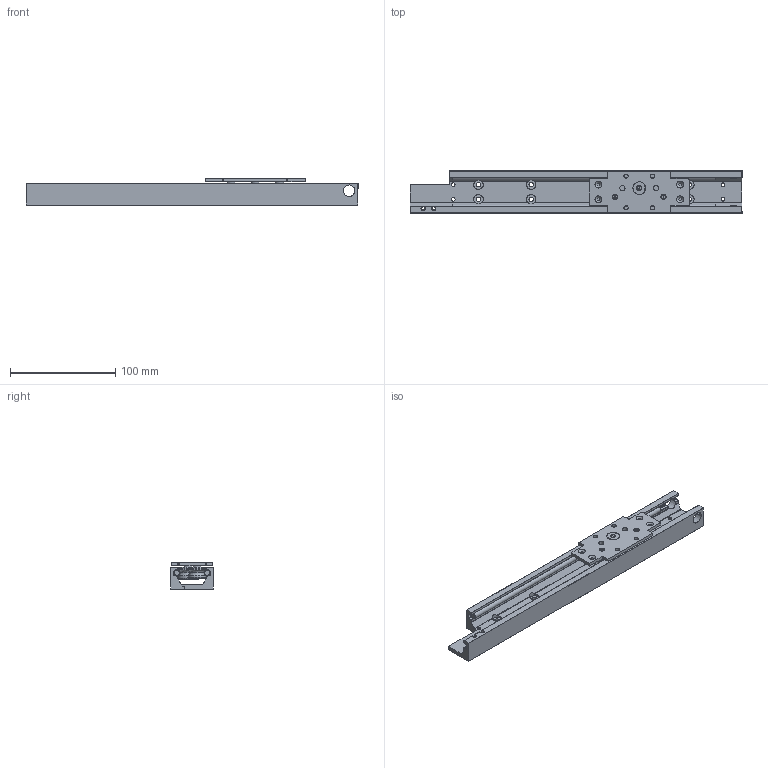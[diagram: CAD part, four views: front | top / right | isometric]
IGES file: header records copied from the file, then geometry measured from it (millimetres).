
Global section: file name:  ; native system: Kubotek KeyCreator; preprocessor: KCM Version 1.1.28; author: KeyCreator•p{ž; organization: Self; date: 20161130.070520; units: millimetre
Bounding box: 315 x 40 x 25.03 mm (x, y, z)
Surface area: 70935.1 mm2 (no closed solid volume)
Topology: 0 solids, 0 shells, 320 faces, 1620 edges, 1495 vertices
Faces by surface type: revolution 187, plane 114, bspline 19
